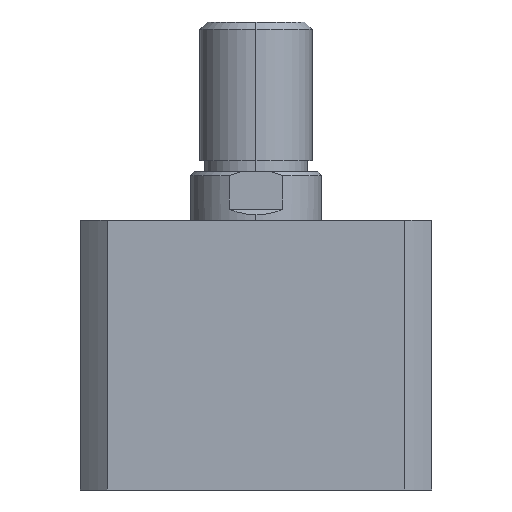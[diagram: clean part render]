
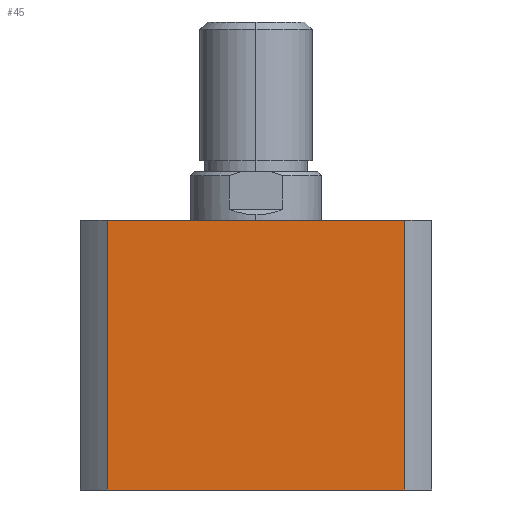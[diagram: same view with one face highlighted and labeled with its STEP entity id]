
A CAD part, left-side view. The second image highlights one B-rep face of the part: STEP entity #45.
In plain terms, the highlighted planar face has unit normal (-1, 0, 0).
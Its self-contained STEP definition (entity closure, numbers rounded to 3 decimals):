
#45 = ADVANCED_FACE ( 'NONE', ( #4911 ), #603, .F. ) ;
#484 = AXIS2_PLACEMENT_3D ( 'NONE', #597, #606, #607 ) ;
#597 = CARTESIAN_POINT ( 'NONE',  ( -47., 0., 72. ) ) ;
#603 = PLANE ( 'NONE',  #484 ) ;
#606 = DIRECTION ( 'NONE',  ( 1., 0., 0. ) ) ;
#607 = DIRECTION ( 'NONE',  ( 0., 0., -1. ) ) ;
#1560 = LINE ( 'NONE', #1746, #1562 ) ;
#1562 = VECTOR ( 'NONE', #1745, 1000. ) ;
#1745 = DIRECTION ( 'NONE',  ( 0., -1., 0. ) ) ;
#1746 = CARTESIAN_POINT ( 'NONE',  ( -47., 0., 72. ) ) ;
#2103 = ORIENTED_EDGE ( 'NONE', *, *, #4670, .F. ) ;
#2138 = ORIENTED_EDGE ( 'NONE', *, *, #4669, .T. ) ;
#2165 = ORIENTED_EDGE ( 'NONE', *, *, #4668, .T. ) ;
#2170 = ORIENTED_EDGE ( 'NONE', *, *, #4891, .F. ) ;
#2198 = VERTEX_POINT ( 'NONE', #3694 ) ;
#2199 = VERTEX_POINT ( 'NONE', #3687 ) ;
#2604 = EDGE_LOOP ( 'NONE', ( #2138, #2103, #2170, #2165 ) ) ;
#2729 = VERTEX_POINT ( 'NONE', #3869 ) ;
#2733 = VERTEX_POINT ( 'NONE', #3871 ) ;
#3687 = CARTESIAN_POINT ( 'NONE',  ( -47., 39.664, 72. ) ) ;
#3694 = CARTESIAN_POINT ( 'NONE',  ( -47., -39.664, 72. ) ) ;
#3869 = CARTESIAN_POINT ( 'NONE',  ( -47., -39.664, 0. ) ) ;
#3871 = CARTESIAN_POINT ( 'NONE',  ( -47., 39.664, 0. ) ) ;
#3978 = DIRECTION ( 'NONE',  ( 0., 0., -1. ) ) ;
#3981 = CARTESIAN_POINT ( 'NONE',  ( -47., 39.664, 72. ) ) ;
#3983 = CARTESIAN_POINT ( 'NONE',  ( -47., 0., 0. ) ) ;
#3988 = DIRECTION ( 'NONE',  ( 0., -1., 0. ) ) ;
#3989 = CARTESIAN_POINT ( 'NONE',  ( -47., -39.664, 72. ) ) ;
#3991 = DIRECTION ( 'NONE',  ( 0., 0., -1. ) ) ;
#4003 = LINE ( 'NONE', #3983, #4011 ) ;
#4006 = LINE ( 'NONE', #3981, #4009 ) ;
#4009 = VECTOR ( 'NONE', #3978, 1000. ) ;
#4010 = LINE ( 'NONE', #3989, #4013 ) ;
#4011 = VECTOR ( 'NONE', #3988, 1000. ) ;
#4013 = VECTOR ( 'NONE', #3991, 1000. ) ;
#4668 = EDGE_CURVE ( 'NONE', #2199, #2733, #4006, .T. ) ;
#4669 = EDGE_CURVE ( 'NONE', #2733, #2729, #4003, .T. ) ;
#4670 = EDGE_CURVE ( 'NONE', #2198, #2729, #4010, .T. ) ;
#4891 = EDGE_CURVE ( 'NONE', #2199, #2198, #1560, .T. ) ;
#4911 = FACE_OUTER_BOUND ( 'NONE', #2604, .T. ) ;
